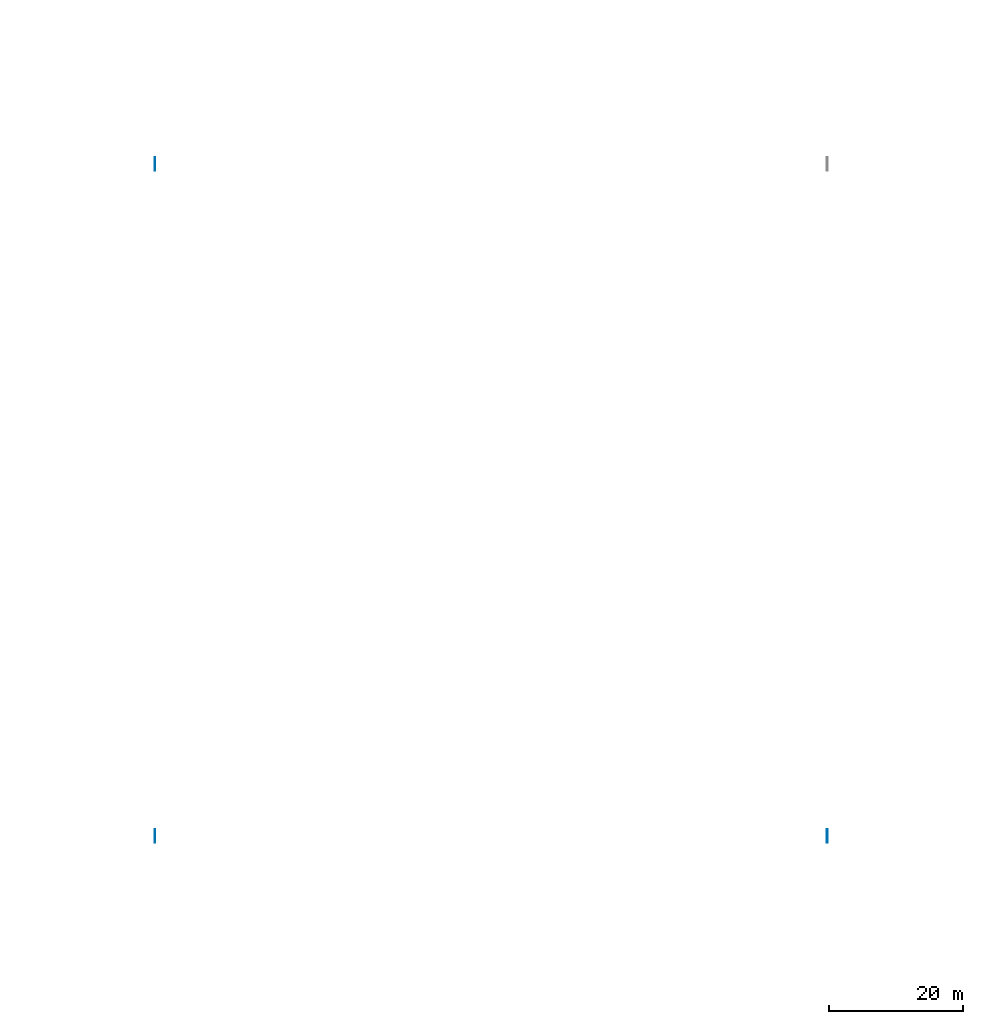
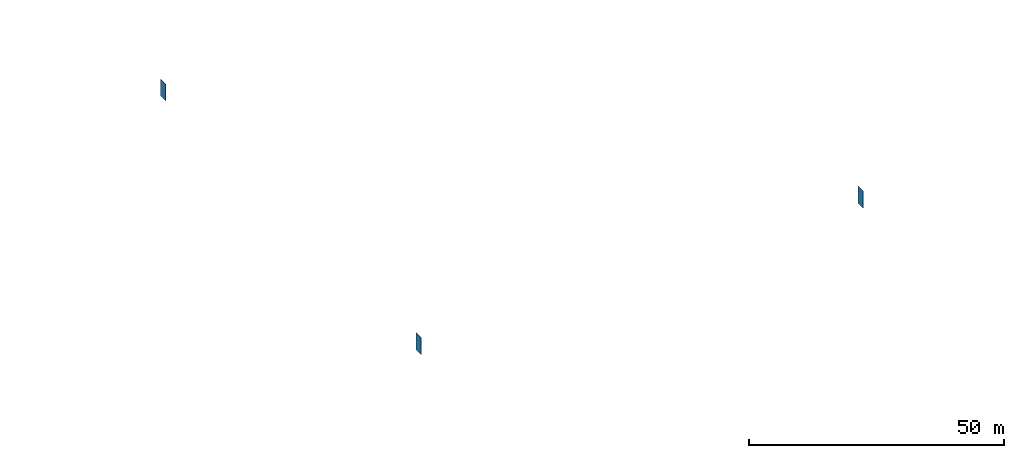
# One storey, part 88 of 164: 3 walls.
"""IFC2X3 building model written with IfcOpenShell, lengths in millimetres."""

from ifc_helpers import new_model, entity, si_unit, converted_unit, derived_unit, direction, frame, frame_2d, origin, place, context, subcontext, project, spatial, rectangle, extrude, material, layer, layer_set, layer_usage, type_object, element, save


model = new_model("IFC2X3")

# Units and contexts
model_context = context("Model", 3, precision=0.01, world=origin(), true_north=direction((6.12303176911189e-17, 1.0)))
body_context = subcontext(model_context, "Body", "Model", "MODEL_VIEW")
ifc_project = project(units=[si_unit("LENGTHUNIT", "METRE", prefix="MILLI"), si_unit("AREAUNIT", "SQUARE_METRE"), si_unit("VOLUMEUNIT", "CUBIC_METRE"), converted_unit("PLANEANGLEUNIT", "DEGREE", entity("IfcRatioMeasure", 0.0174532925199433), si_unit("PLANEANGLEUNIT", "RADIAN"), dimensions=[0, 0, 0, 0, 0, 0, 0]), si_unit("MASSUNIT", "GRAM", prefix="KILO"), derived_unit("MASSDENSITYUNIT", [(si_unit("MASSUNIT", "GRAM", prefix="KILO"), 1), (si_unit("LENGTHUNIT", "METRE"), -3)]), derived_unit("MOMENTOFINERTIAUNIT", [(si_unit("LENGTHUNIT", "METRE"), 4)]), si_unit("TIMEUNIT", "SECOND"), si_unit("FREQUENCYUNIT", "HERTZ"), si_unit("THERMODYNAMICTEMPERATUREUNIT", "DEGREE_CELSIUS"), derived_unit("THERMALTRANSMITTANCEUNIT", [(si_unit("MASSUNIT", "GRAM", prefix="KILO"), 1), (si_unit("THERMODYNAMICTEMPERATUREUNIT", "KELVIN"), -1), (si_unit("TIMEUNIT", "SECOND"), -3)]), derived_unit("VOLUMETRICFLOWRATEUNIT", [(si_unit("LENGTHUNIT", "METRE"), 3), (si_unit("TIMEUNIT", "SECOND"), -1)]), si_unit("ELECTRICCURRENTUNIT", "AMPERE"), si_unit("ELECTRICVOLTAGEUNIT", "VOLT"), si_unit("POWERUNIT", "WATT"), si_unit("FORCEUNIT", "NEWTON", prefix="KILO"), si_unit("ILLUMINANCEUNIT", "LUX"), si_unit("LUMINOUSFLUXUNIT", "LUMEN"), si_unit("LUMINOUSINTENSITYUNIT", "CANDELA"), derived_unit("USERDEFINED", [(si_unit("MASSUNIT", "GRAM", prefix="KILO"), -1), (si_unit("LENGTHUNIT", "METRE"), -2), (si_unit("TIMEUNIT", "SECOND"), 3), (si_unit("LUMINOUSFLUXUNIT", "LUMEN"), 1)]), derived_unit("LINEARVELOCITYUNIT", [(si_unit("LENGTHUNIT", "METRE"), 1), (si_unit("TIMEUNIT", "SECOND"), -1)]), si_unit("PRESSUREUNIT", "PASCAL"), derived_unit("USERDEFINED", [(si_unit("LENGTHUNIT", "METRE"), -2), (si_unit("MASSUNIT", "GRAM", prefix="KILO"), 1), (si_unit("TIMEUNIT", "SECOND"), -2)]), derived_unit("LINEARFORCEUNIT", [(si_unit("MASSUNIT", "GRAM", prefix="KILO"), 1), (si_unit("LENGTHUNIT", "METRE"), 1), (si_unit("TIMEUNIT", "SECOND"), -2), (si_unit("LENGTHUNIT", "METRE"), -1)]), derived_unit("PLANARFORCEUNIT", [(si_unit("MASSUNIT", "GRAM", prefix="KILO"), 1), (si_unit("LENGTHUNIT", "METRE"), 1), (si_unit("TIMEUNIT", "SECOND"), -2), (si_unit("LENGTHUNIT", "METRE"), -2)])], contexts=[model_context])

# Site, building, storey
site_placement = place(None, origin())
site = spatial("IfcSite", under=ifc_project, at=site_placement, Name="Default", CompositionType="ELEMENT")
building_placement = place(site_placement, origin())
building = spatial("IfcBuilding", under=site, at=building_placement, CompositionType="ELEMENT")
storey_placement = place(building_placement, origin())
storey = spatial("IfcBuildingStorey", under=building, at=storey_placement, Name="Level 1", CompositionType="ELEMENT", Elevation=0.0)

# Walls
ifc_material = material(Name="Default Wall")
ifc_layer = layer(ifc_material, 100.0)
ifc_layer_set = layer_set([ifc_layer], Name="Basic Wall:Generic - 100mm")
ifc_layer_usage_1 = layer_usage(ifc_layer_set, "AXIS2", "NEGATIVE", 50.0)
wall_type = type_object("IfcWallType", Name="Basic Wall:Generic - 100mm", PredefinedType="STANDARD", material=ifc_layer_set)
wall_1_placement = place(storey_placement, frame((1600050.0, 801000.0, 0.0), z_axis=(0.0, 0.0, 1.0), x_axis=(0.0, -1.0, 0.0)))
element("IfcWallStandardCase", 1, at=wall_1_placement, inside=storey, type_object=wall_type, material=ifc_layer_usage_1, Name="Basic Wall:Generic - 100mm", ObjectType="Basic Wall:Generic - 100mm", context=body_context, shape_type="SweptSolid", body=[
    extrude(rectangle(XDim=2000.0000000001, YDim=100.000000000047, at=frame_2d((1000.00000000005, 1.60582658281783e-12), x_axis=(-1.0, 0.0))), origin(), (0.0, 0.0, 1.0), 4000.0),
])
ifc_layer_usage_2 = layer_usage(ifc_layer_set, "AXIS2", "NEGATIVE", 50.0)
wall_2_placement = place(storey_placement, frame((1700050.0, 801000.0, 0.0), z_axis=(0.0, 0.0, 1.0), x_axis=(0.0, -1.0, 0.0)))
element("IfcWallStandardCase", 2, at=wall_2_placement, inside=storey, type_object=wall_type, material=ifc_layer_usage_2, Name="Basic Wall:Generic - 100mm", ObjectType="Basic Wall:Generic - 100mm", context=body_context, shape_type="SweptSolid", body=[
    extrude(rectangle(XDim=2000.0000000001, YDim=100.000000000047, at=frame_2d((1000.00000000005, 1.60582658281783e-12), x_axis=(-1.0, 0.0))), origin(), (0.0, 0.0, 1.0), 4000.0),
])
ifc_layer_usage_3 = layer_usage(ifc_layer_set, "AXIS2", "NEGATIVE", 50.0)
wall_3_placement = place(storey_placement, frame((1600050.0, 901000.0, 0.0), z_axis=(0.0, 0.0, 1.0), x_axis=(0.0, -1.0, 0.0)))
element("IfcWallStandardCase", 3, at=wall_3_placement, inside=storey, type_object=wall_type, material=ifc_layer_usage_3, Name="Basic Wall:Generic - 100mm", ObjectType="Basic Wall:Generic - 100mm", context=body_context, shape_type="SweptSolid", body=[
    extrude(rectangle(XDim=2000.0000000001, YDim=100.000000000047, at=frame_2d((1000.00000000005, 1.60582658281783e-12), x_axis=(-1.0, 0.0))), origin(), (0.0, 0.0, 1.0), 4000.0),
])

save(model, "model.ifc")
